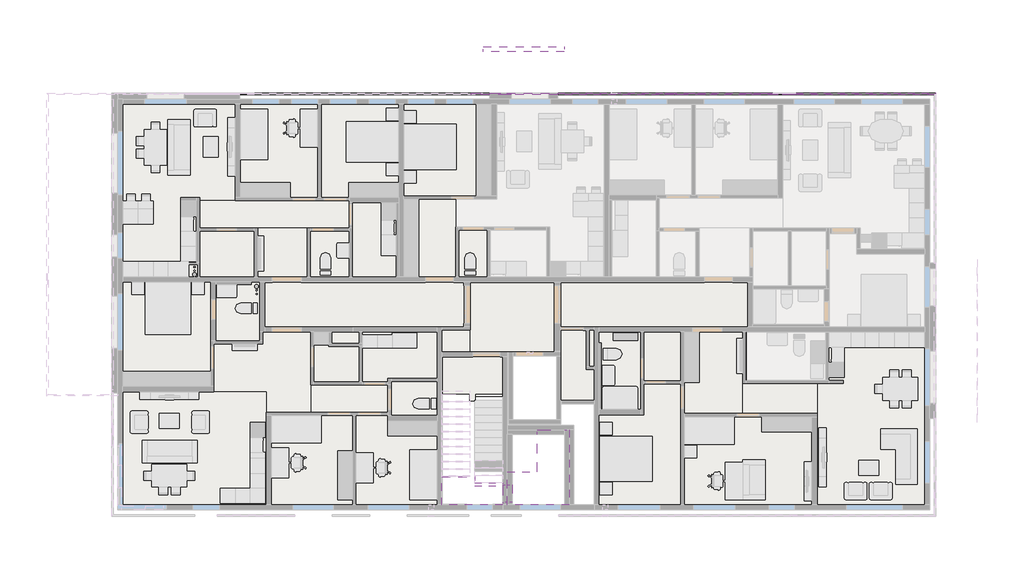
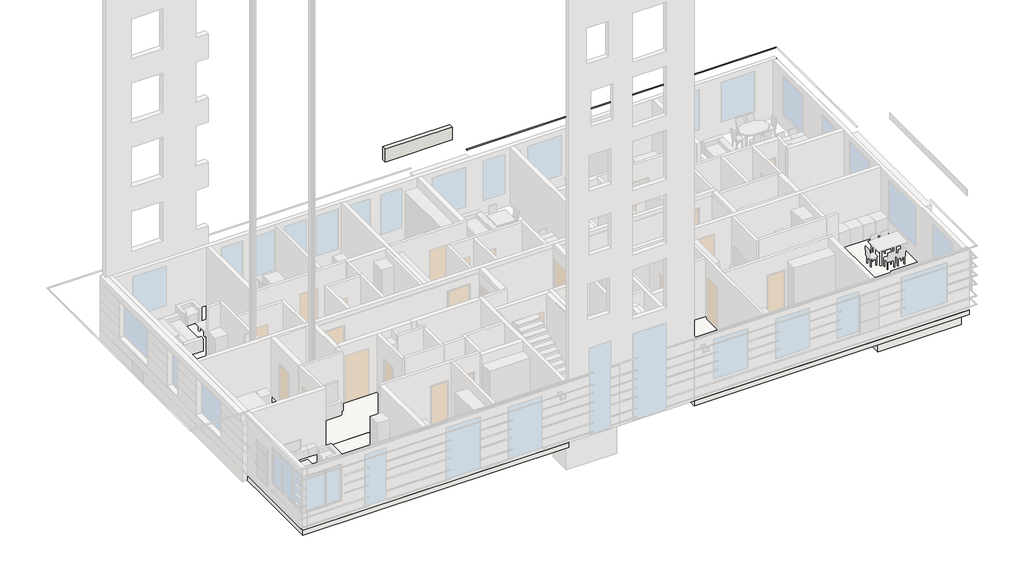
# One storey, part 8 of 11: 35 slabs, 17 proxies, 1 wall.
"""IFC4 building model written with IfcOpenShell, lengths in millimetres."""

from ifc_helpers import new_model, si_unit, frame, origin, place, context, project, spatial, polyline, outline, extrude, faceted_brep, element, save

model = new_model("IFC4")

# Units and contexts
model_context = context("Model", 3, world=origin())
ifc_project = project(units=[si_unit("LENGTHUNIT", "METRE", prefix="MILLI")], contexts=[model_context])

# Site, building, storey
site = spatial("IfcSite", under=ifc_project)
building = spatial("IfcBuilding", under=site)
storey = spatial("IfcBuildingStorey", under=building, Name="02_+4,400_Ж", Elevation=1200.0)

# Proxies
placement = place(None, origin())
element("IfcBuildingElementProxy", 1, Name="Reveals", at=placement, inside=storey, context=model_context, shape_type="SweptSolid", body=[
    extrude(outline(polyline([(143829.5000001, 128049.9999987), (143829.5000001, 127989.9999987), (143080.0000001, 127989.9999987), (143080.0000001, 128049.9999987), (143829.5000001, 128049.9999987)])), frame((0.0, 0.0, 2940.0), z_axis=(0.0, 0.0, 1.0), x_axis=(1.0, 0.0, 0.0)), (0.0, 0.0, 1.0), 5.0),
    extrude(outline(polyline([(135980.0000001, 128049.9999987), (135980.0000001, 127989.9999987), (135330.0000001, 127989.9999987), (135330.0000001, 128049.9999987), (135980.0000001, 128049.9999987)])), frame((0.0, 0.0, 2940.0), z_axis=(0.0, 0.0, 1.0), x_axis=(1.0, 0.0, 0.0)), (0.0, 0.0, 1.0), 5.0),
    extrude(outline(polyline([(137530.0000001, 128049.9999987), (137530.0000001, 127989.9999987), (136880.0000001, 127989.9999987), (136880.0000001, 128049.9999987), (137530.0000001, 128049.9999987)])), frame((0.0, 0.0, 2940.0), z_axis=(0.0, 0.0, 1.0), x_axis=(1.0, 0.0, 0.0)), (0.0, 0.0, 1.0), 5.0),
    extrude(outline(polyline([(139080.0000001, 128049.9999987), (139080.0000001, 127989.9999987), (138430.0000001, 127989.9999987), (138430.0000001, 128049.9999987), (139080.0000001, 128049.9999987)])), frame((0.0, 0.0, 2940.0), z_axis=(0.0, 0.0, 1.0), x_axis=(1.0, 0.0, 0.0)), (0.0, 0.0, 1.0), 5.0),
    extrude(outline(polyline([(140630.0000001, 128049.9999987), (140630.0000001, 127989.9999987), (139980.0000001, 127989.9999987), (139980.0000001, 128049.9999987), (140630.0000001, 128049.9999987)])), frame((0.0, 0.0, 2940.0), z_axis=(0.0, 0.0, 1.0), x_axis=(1.0, 0.0, 0.0)), (0.0, 0.0, 1.0), 5.0),
    extrude(outline(polyline([(142180.0000001, 128049.9999987), (142180.0000001, 127989.9999987), (141530.0000001, 127989.9999987), (141530.0000001, 128049.9999987), (142180.0000001, 128049.9999987)])), frame((0.0, 0.0, 2940.0), z_axis=(0.0, 0.0, 1.0), x_axis=(1.0, 0.0, 0.0)), (0.0, 0.0, 1.0), 5.0),
])
element("IfcBuildingElementProxy", 2, Name="Reveals", at=placement, inside=storey, context=model_context, shape_type="SweptSolid", body=[
    extrude(outline(polyline([(143829.5000001, 128049.9999987), (143829.5000001, 127989.9999987), (143080.0000001, 127989.9999987), (143080.0000001, 128049.9999987), (143829.5000001, 128049.9999987)])), frame((0.0, 0.0, 2485.0), z_axis=(0.0, 0.0, 1.0), x_axis=(1.0, 0.0, 0.0)), (0.0, 0.0, 1.0), 5.0),
    extrude(outline(polyline([(135980.0000001, 128049.9999987), (135980.0000001, 127989.9999987), (135330.0000001, 127989.9999987), (135330.0000001, 128049.9999987), (135980.0000001, 128049.9999987)])), frame((0.0, 0.0, 2485.0), z_axis=(0.0, 0.0, 1.0), x_axis=(1.0, 0.0, 0.0)), (0.0, 0.0, 1.0), 5.0),
    extrude(outline(polyline([(137530.0000001, 128049.9999987), (137530.0000001, 127989.9999987), (136880.0000001, 127989.9999987), (136880.0000001, 128049.9999987), (137530.0000001, 128049.9999987)])), frame((0.0, 0.0, 2485.0), z_axis=(0.0, 0.0, 1.0), x_axis=(1.0, 0.0, 0.0)), (0.0, 0.0, 1.0), 5.0),
    extrude(outline(polyline([(139080.0000001, 128049.9999987), (139080.0000001, 127989.9999987), (138430.0000001, 127989.9999987), (138430.0000001, 128049.9999987), (139080.0000001, 128049.9999987)])), frame((0.0, 0.0, 2485.0), z_axis=(0.0, 0.0, 1.0), x_axis=(1.0, 0.0, 0.0)), (0.0, 0.0, 1.0), 5.0),
    extrude(outline(polyline([(140630.0000001, 128049.9999987), (140630.0000001, 127989.9999987), (139980.0000001, 127989.9999987), (139980.0000001, 128049.9999987), (140630.0000001, 128049.9999987)])), frame((0.0, 0.0, 2485.0), z_axis=(0.0, 0.0, 1.0), x_axis=(1.0, 0.0, 0.0)), (0.0, 0.0, 1.0), 5.0),
    extrude(outline(polyline([(142180.0000001, 128049.9999987), (142180.0000001, 127989.9999987), (141530.0000001, 127989.9999987), (141530.0000001, 128049.9999987), (142180.0000001, 128049.9999987)])), frame((0.0, 0.0, 2485.0), z_axis=(0.0, 0.0, 1.0), x_axis=(1.0, 0.0, 0.0)), (0.0, 0.0, 1.0), 5.0),
    extrude(outline(polyline([(134430.0000001, 128049.9999987), (134430.0000001, 127989.9999987), (133840.0000001, 127989.9999987), (133840.0000001, 128049.9999987), (134430.0000001, 128049.9999987)])), frame((0.0, 0.0, 2485.0), z_axis=(0.0, 0.0, 1.0), x_axis=(1.0, 0.0, 0.0)), (0.0, 0.0, 1.0), 5.0),
])
element("IfcBuildingElementProxy", 3, Name="Reveals", at=placement, inside=storey, context=model_context, shape_type="SweptSolid", body=[
    extrude(outline(polyline([(143829.5000001, 128049.9999987), (143829.5000001, 127989.9999987), (133840.0000001, 127989.9999987), (133840.0000001, 128049.9999987), (143829.5000001, 128049.9999987)])), frame((0.0, 0.0, 1880.0), z_axis=(0.0, 0.0, 1.0), x_axis=(1.0, 0.0, 0.0)), (0.0, 0.0, 1.0), 5.0),
])
element("IfcBuildingElementProxy", 4, Name="Reveals", at=placement, inside=storey, context=model_context, shape_type="SweptSolid", body=[
    extrude(outline(polyline([(143829.5000001, 128049.9999987), (143829.5000001, 127989.9999987), (133840.0000001, 127989.9999987), (133840.0000001, 128049.9999987), (143829.5000001, 128049.9999987)])), frame((0.0, 0.0, 1425.0), z_axis=(0.0, 0.0, 1.0), x_axis=(1.0, 0.0, 0.0)), (0.0, 0.0, 1.0), 5.0),
])
element("IfcBuildingElementProxy", 5, Name="Reveals", at=placement, inside=storey, context=model_context, shape_type="SweptSolid", body=[
    extrude(outline(polyline([(146529.5000001, 128049.9999987), (146529.5000001, 127989.9999987), (143829.5000001, 127989.9999987), (143829.5000001, 128049.9999987), (146529.5000001, 128049.9999987)])), frame((0.0, 0.0, 3850.0), z_axis=(0.0, 0.0, 1.0), x_axis=(1.0, 0.0, 0.0)), (0.0, 0.0, 1.0), 5.0),
])
element("IfcBuildingElementProxy", 6, Name="Reveals", at=placement, inside=storey, context=model_context, shape_type="SweptSolid", body=[
    extrude(outline(polyline([(146529.5000001, 128049.9999987), (146529.5000001, 127989.9999987), (146180.0000001, 127989.9999987), (146180.0000001, 128049.9999987), (146529.5000001, 128049.9999987)])), frame((0.0, 0.0, 3395.0), z_axis=(0.0, 0.0, 1.0), x_axis=(1.0, 0.0, 0.0)), (0.0, 0.0, 1.0), 5.0),
    extrude(outline(polyline([(144680.0000001, 128049.9999987), (144680.0000001, 127989.9999987), (143829.5000001, 127989.9999987), (143829.5000001, 128049.9999987), (144680.0000001, 128049.9999987)])), frame((0.0, 0.0, 3395.0), z_axis=(0.0, 0.0, 1.0), x_axis=(1.0, 0.0, 0.0)), (0.0, 0.0, 1.0), 5.0),
])
element("IfcBuildingElementProxy", 7, Name="Reveals", at=placement, inside=storey, context=model_context, shape_type="SweptSolid", body=[
    extrude(outline(polyline([(146529.5000001, 128049.9999987), (146529.5000001, 127989.9999987), (146180.0000001, 127989.9999987), (146180.0000001, 128049.9999987), (146529.5000001, 128049.9999987)])), frame((0.0, 0.0, 2940.0), z_axis=(0.0, 0.0, 1.0), x_axis=(1.0, 0.0, 0.0)), (0.0, 0.0, 1.0), 5.0),
    extrude(outline(polyline([(144680.0000001, 128049.9999987), (144680.0000001, 127989.9999987), (143829.5000001, 127989.9999987), (143829.5000001, 128049.9999987), (144680.0000001, 128049.9999987)])), frame((0.0, 0.0, 2940.0), z_axis=(0.0, 0.0, 1.0), x_axis=(1.0, 0.0, 0.0)), (0.0, 0.0, 1.0), 5.0),
])
element("IfcBuildingElementProxy", 8, Name="Reveals", at=placement, inside=storey, context=model_context, shape_type="SweptSolid", body=[
    extrude(outline(polyline([(146529.5000001, 128049.9999987), (146529.5000001, 127989.9999987), (146180.0000001, 127989.9999987), (146180.0000001, 128049.9999987), (146529.5000001, 128049.9999987)])), frame((0.0, 0.0, 2485.0), z_axis=(0.0, 0.0, 1.0), x_axis=(1.0, 0.0, 0.0)), (0.0, 0.0, 1.0), 5.0),
    extrude(outline(polyline([(144680.0000001, 128049.9999987), (144680.0000001, 127989.9999987), (143829.5000001, 127989.9999987), (143829.5000001, 128049.9999987), (144680.0000001, 128049.9999987)])), frame((0.0, 0.0, 2485.0), z_axis=(0.0, 0.0, 1.0), x_axis=(1.0, 0.0, 0.0)), (0.0, 0.0, 1.0), 5.0),
])
element("IfcBuildingElementProxy", 9, Name="Reveals", at=placement, inside=storey, context=model_context, shape_type="SweptSolid", body=[
    extrude(outline(polyline([(146529.5000001, 128049.9999987), (146529.5000001, 127989.9999987), (143829.5000001, 127989.9999987), (143829.5000001, 128049.9999987), (146529.5000001, 128049.9999987)])), frame((0.0, 0.0, 1880.0), z_axis=(0.0, 0.0, 1.0), x_axis=(1.0, 0.0, 0.0)), (0.0, 0.0, 1.0), 5.0),
])
element("IfcBuildingElementProxy", 10, Name="Reveals", at=placement, inside=storey, context=model_context, shape_type="SweptSolid", body=[
    extrude(outline(polyline([(146529.5000001, 128049.9999987), (146529.5000001, 127989.9999987), (143829.5000001, 127989.9999987), (143829.5000001, 128049.9999987), (146529.5000001, 128049.9999987)])), frame((0.0, 0.0, 1425.0), z_axis=(0.0, 0.0, 1.0), x_axis=(1.0, 0.0, 0.0)), (0.0, 0.0, 1.0), 5.0),
])
element("IfcBuildingElementProxy", 11, Name="Reveals", at=placement, inside=storey, context=model_context, shape_type="SweptSolid", body=[
    extrude(outline(polyline([(161630.0000001, 128049.9999987), (161570.0000001, 127989.9999987), (146529.5000001, 127989.9999987), (146529.5000001, 128049.9999987), (161630.0000001, 128049.9999987)])), frame((0.0, 0.0, 4455.0), z_axis=(0.0, 0.0, 1.0), x_axis=(1.0, 0.0, 0.0)), (0.0, 0.0, 1.0), 5.0),
])
element("IfcBuildingElementProxy", 12, Name="Reveals", at=placement, inside=storey, context=model_context, shape_type="SweptSolid", body=[
    extrude(outline(polyline([(161630.0000001, 128049.9999987), (161570.0000001, 127989.9999987), (146529.5000001, 127989.9999987), (146529.5000001, 128049.9999987), (161630.0000001, 128049.9999987)])), frame((0.0, 0.0, 3850.0), z_axis=(0.0, 0.0, 1.0), x_axis=(1.0, 0.0, 0.0)), (0.0, 0.0, 1.0), 5.0),
])
element("IfcBuildingElementProxy", 13, Name="Reveals", at=placement, inside=storey, context=model_context, shape_type="SweptSolid", body=[
    extrude(outline(polyline([(161630.0000001, 128049.9999987), (161570.0000001, 127989.9999987), (160230.0000001, 127989.9999987), (160230.0000001, 128049.9999987), (161630.0000001, 128049.9999987)])), frame((0.0, 0.0, 3395.0), z_axis=(0.0, 0.0, 1.0), x_axis=(1.0, 0.0, 0.0)), (0.0, 0.0, 1.0), 5.0),
    extrude(outline(polyline([(147180.0000001, 128049.9999987), (147180.0000001, 127989.9999987), (146529.5000001, 127989.9999987), (146529.5000001, 128049.9999987), (147180.0000001, 128049.9999987)])), frame((0.0, 0.0, 3395.0), z_axis=(0.0, 0.0, 1.0), x_axis=(1.0, 0.0, 0.0)), (0.0, 0.0, 1.0), 5.0),
    extrude(outline(polyline([(149330.0000001, 128049.9999987), (149330.0000001, 127989.9999987), (148080.0000001, 127989.9999987), (148080.0000001, 128049.9999987), (149330.0000001, 128049.9999987)])), frame((0.0, 0.0, 3395.0), z_axis=(0.0, 0.0, 1.0), x_axis=(1.0, 0.0, 0.0)), (0.0, 0.0, 1.0), 5.0),
    extrude(outline(polyline([(152430.0000001, 128049.9999987), (152430.0000001, 127989.9999987), (150830.0000001, 127989.9999987), (150830.0000001, 128049.9999987), (152430.0000001, 128049.9999987)])), frame((0.0, 0.0, 3395.0), z_axis=(0.0, 0.0, 1.0), x_axis=(1.0, 0.0, 0.0)), (0.0, 0.0, 1.0), 5.0),
    extrude(outline(polyline([(156030.0000001, 128049.9999987), (156030.0000001, 127989.9999987), (153930.0000001, 127989.9999987), (153930.0000001, 128049.9999987), (156030.0000001, 128049.9999987)])), frame((0.0, 0.0, 3395.0), z_axis=(0.0, 0.0, 1.0), x_axis=(1.0, 0.0, 0.0)), (0.0, 0.0, 1.0), 5.0),
    extrude(outline(polyline([(158730.0000001, 128049.9999987), (158730.0000001, 127989.9999987), (157530.0000001, 127989.9999987), (157530.0000001, 128049.9999987), (158730.0000001, 128049.9999987)])), frame((0.0, 0.0, 3395.0), z_axis=(0.0, 0.0, 1.0), x_axis=(1.0, 0.0, 0.0)), (0.0, 0.0, 1.0), 5.0),
])
element("IfcBuildingElementProxy", 14, Name="Reveals", at=placement, inside=storey, context=model_context, shape_type="SweptSolid", body=[
    extrude(outline(polyline([(161630.0000001, 128049.9999987), (161570.0000001, 127989.9999987), (160230.0000001, 127989.9999987), (160230.0000001, 128049.9999987), (161630.0000001, 128049.9999987)])), frame((0.0, 0.0, 2940.0), z_axis=(0.0, 0.0, 1.0), x_axis=(1.0, 0.0, 0.0)), (0.0, 0.0, 1.0), 5.0),
    extrude(outline(polyline([(158730.0000001, 128049.9999987), (158730.0000001, 127989.9999987), (157530.0000001, 127989.9999987), (157530.0000001, 128049.9999987), (158730.0000001, 128049.9999987)])), frame((0.0, 0.0, 2940.0), z_axis=(0.0, 0.0, 1.0), x_axis=(1.0, 0.0, 0.0)), (0.0, 0.0, 1.0), 5.0),
    extrude(outline(polyline([(147180.0000001, 128049.9999987), (147180.0000001, 127989.9999987), (146529.5000001, 127989.9999987), (146529.5000001, 128049.9999987), (147180.0000001, 128049.9999987)])), frame((0.0, 0.0, 2940.0), z_axis=(0.0, 0.0, 1.0), x_axis=(1.0, 0.0, 0.0)), (0.0, 0.0, 1.0), 5.0),
    extrude(outline(polyline([(149330.0000001, 128049.9999987), (149330.0000001, 127989.9999987), (148080.0000001, 127989.9999987), (148080.0000001, 128049.9999987), (149330.0000001, 128049.9999987)])), frame((0.0, 0.0, 2940.0), z_axis=(0.0, 0.0, 1.0), x_axis=(1.0, 0.0, 0.0)), (0.0, 0.0, 1.0), 5.0),
    extrude(outline(polyline([(152430.0000001, 128049.9999987), (152430.0000001, 127989.9999987), (150830.0000001, 127989.9999987), (150830.0000001, 128049.9999987), (152430.0000001, 128049.9999987)])), frame((0.0, 0.0, 2940.0), z_axis=(0.0, 0.0, 1.0), x_axis=(1.0, 0.0, 0.0)), (0.0, 0.0, 1.0), 5.0),
    extrude(outline(polyline([(155130.0000001, 128049.9999987), (155130.0000001, 127989.9999987), (153930.0000001, 127989.9999987), (153930.0000001, 128049.9999987), (155130.0000001, 128049.9999987)])), frame((0.0, 0.0, 2940.0), z_axis=(0.0, 0.0, 1.0), x_axis=(1.0, 0.0, 0.0)), (0.0, 0.0, 1.0), 5.0),
])
element("IfcBuildingElementProxy", 15, Name="Reveals", at=placement, inside=storey, context=model_context, shape_type="SweptSolid", body=[
    extrude(outline(polyline([(161630.0000001, 128049.9999987), (161570.0000001, 127989.9999987), (160230.0000001, 127989.9999987), (160230.0000001, 128049.9999987), (161630.0000001, 128049.9999987)])), frame((0.0, 0.0, 2485.0), z_axis=(0.0, 0.0, 1.0), x_axis=(1.0, 0.0, 0.0)), (0.0, 0.0, 1.0), 5.0),
    extrude(outline(polyline([(147180.0000001, 128049.9999987), (147180.0000001, 127989.9999987), (146529.5000001, 127989.9999987), (146529.5000001, 128049.9999987), (147180.0000001, 128049.9999987)])), frame((0.0, 0.0, 2485.0), z_axis=(0.0, 0.0, 1.0), x_axis=(1.0, 0.0, 0.0)), (0.0, 0.0, 1.0), 5.0),
    extrude(outline(polyline([(149330.0000001, 128049.9999987), (149330.0000001, 127989.9999987), (148080.0000001, 127989.9999987), (148080.0000001, 128049.9999987), (149330.0000001, 128049.9999987)])), frame((0.0, 0.0, 2485.0), z_axis=(0.0, 0.0, 1.0), x_axis=(1.0, 0.0, 0.0)), (0.0, 0.0, 1.0), 5.0),
    extrude(outline(polyline([(152430.0000001, 128049.9999987), (152430.0000001, 127989.9999987), (150830.0000001, 127989.9999987), (150830.0000001, 128049.9999987), (152430.0000001, 128049.9999987)])), frame((0.0, 0.0, 2485.0), z_axis=(0.0, 0.0, 1.0), x_axis=(1.0, 0.0, 0.0)), (0.0, 0.0, 1.0), 5.0),
    extrude(outline(polyline([(156030.0000001, 128049.9999987), (156030.0000001, 127989.9999987), (153930.0000001, 127989.9999987), (153930.0000001, 128049.9999987), (156030.0000001, 128049.9999987)])), frame((0.0, 0.0, 2485.0), z_axis=(0.0, 0.0, 1.0), x_axis=(1.0, 0.0, 0.0)), (0.0, 0.0, 1.0), 5.0),
    extrude(outline(polyline([(158730.0000001, 128049.9999987), (158730.0000001, 127989.9999987), (157530.0000001, 127989.9999987), (157530.0000001, 128049.9999987), (158730.0000001, 128049.9999987)])), frame((0.0, 0.0, 2485.0), z_axis=(0.0, 0.0, 1.0), x_axis=(1.0, 0.0, 0.0)), (0.0, 0.0, 1.0), 5.0),
])
element("IfcBuildingElementProxy", 16, Name="Reveals", at=placement, inside=storey, context=model_context, shape_type="SweptSolid", body=[
    extrude(outline(polyline([(161630.0000001, 128049.9999987), (161570.0000001, 127989.9999987), (146529.5000001, 127989.9999987), (146529.5000001, 128049.9999987), (161630.0000001, 128049.9999987)])), frame((0.0, 0.0, 1880.0), z_axis=(0.0, 0.0, 1.0), x_axis=(1.0, 0.0, 0.0)), (0.0, 0.0, 1.0), 5.0),
])
element("IfcBuildingElementProxy", 17, Name="Reveals", at=placement, inside=storey, context=model_context, shape_type="SweptSolid", body=[
    extrude(outline(polyline([(161630.0000001, 128049.9999987), (161570.0000001, 127989.9999987), (146529.5000001, 127989.9999987), (146529.5000001, 128049.9999987), (161630.0000001, 128049.9999987)])), frame((0.0, 0.0, 1425.0), z_axis=(0.0, 0.0, 1.0), x_axis=(1.0, 0.0, 0.0)), (0.0, 0.0, 1.0), 5.0),
])

# Slabs
element("IfcSlab", 18, ObjectType="FIN_50_Тип 17_ЛК промежуточные-------", at=placement, inside=storey, context=model_context, shape_type="Brep", body=[
    faceted_brep([(144350.0000001, 111599.9999987, 2800.0), (141910.0000001, 111599.9999987, 2800.0), (141910.0000001, 112719.9999987, 2800.0), (143230.0000001, 112719.9999987, 2800.0), (143230.0000001, 112479.9999987, 2800.0), (144350.0000001, 112479.9999987, 2800.0), (144350.0000001, 112399.9999987, 2800.0), (144530.0000001, 112399.9999987, 2800.0), (144720.0000001, 112399.9999987, 2800.0), (144720.0000001, 111699.9999987, 2800.0), (144530.0000001, 111699.9999987, 2800.0), (144350.0000001, 111699.9999987, 2800.0), (144350.0000001, 111599.9999987, 2850.0), (144350.0000001, 111699.9999987, 2850.0), (144530.0000001, 111699.9999987, 2850.0), (144720.0000001, 111699.9999987, 2850.0), (144720.0000001, 112399.9999987, 2850.0), (144530.0000001, 112399.9999987, 2850.0), (144350.0000001, 112399.9999987, 2850.0), (144350.0000001, 112479.9999987, 2850.0), (143230.0000001, 112479.9999987, 2850.0), (143230.0000001, 112719.9999987, 2850.0), (141910.0000001, 112719.9999987, 2850.0), (141910.0000001, 111599.9999987, 2850.0), (143230.0000001, 112479.9999987, 2820.0), (144350.0000001, 112479.9999987, 2820.0)], [[[0, 1, 2, 3, 4, 5, 6, 7, 8, 9, 10, 11]], [[12, 13, 14, 15, 16, 17, 18, 19, 20, 21, 22, 23]], [[0, 11, 13, 12]], [[2, 1, 23, 22]], [[1, 0, 12, 23]], [[3, 2, 22, 21]], [[5, 4, 24, 20, 19, 25]], [[4, 3, 21, 20, 24]], [[11, 10, 9, 15, 14, 13]], [[9, 8, 16, 15]], [[8, 7, 6, 18, 17, 16]], [[6, 5, 25, 19, 18]]]),
])
element("IfcSlab", 19, ObjectType="STR_CIP_UP_200_выше 0,000-------", at=placement, inside=storey, context=model_context, shape_type="SweptSolid", body=[
    extrude(outline(polyline([(144350.0000002, 111599.9999987), (141910.0000001, 111599.9999987), (141910.0000001, 112749.9999987), (143230.0000002, 112749.9999987), (143230.0000002, 112349.9999987), (144350.0000002, 112349.9999987), (144350.0000002, 111599.9999987)])), frame((0.0, 0.0, 2620.0), z_axis=(0.0, 0.0, 1.0), x_axis=(1.0, 0.0, 0.0)), (0.0, 0.0, 1.0), 200.0),
])
element("IfcSlab", 20, ObjectType="STR_CIP_UP_250_выше 0,000_НАД ВСТР.-------", at=placement, inside=storey, context=model_context, shape_type="Brep", body=[
    faceted_brep([(141910.0000002, 111399.9999987, 850.0), (128980.0000001, 111399.9999987, 850.0), (128980.0000001, 127799.9999987, 850.0), (161380.0000001, 127799.9999987, 850.0), (161380.0000001, 111399.9999987, 850.0), (148000.0000001, 111399.9999987, 850.0), (148000.0000001, 115639.9999987, 850.0), (146700.0000002, 115639.9999987, 850.0), (146700.0000002, 117749.9999987, 850.0), (144530.0000001, 117749.9999987, 850.0), (144530.0000001, 115939.9999989, 850.0), (143230.0000001, 115939.9999989, 850.0), (143230.0000001, 115749.9999989, 850.0), (143030.0000001, 115749.9999989, 850.0), (143030.0000001, 115767.7708751, 850.0), (143030.0000001, 116149.9999987, 850.0), (141910.0000001, 116149.9999987, 850.0), (141910.0000001, 115767.7708751, 850.0), (128980.0000001, 111399.9999987, 1100.0), (141910.0000002, 111399.9999987, 1100.0), (141910.0000002, 111599.9999987, 1100.0), (141910.0000001, 116019.9999987, 1100.0), (141910.0000001, 116149.9999987, 1100.0), (143030.0000001, 116149.9999987, 1100.0), (143030.0000001, 116019.9999987, 1100.0), (143030.0000001, 115749.9999989, 1100.0), (143230.0000001, 115749.9999989, 1100.0), (143230.0000001, 115939.9999989, 1100.0), (144530.0000001, 115939.9999989, 1100.0), (144530.0000001, 117519.9999987, 1100.0), (144530.0000001, 117749.9999987, 1100.0), (146700.0000002, 117749.9999987, 1100.0), (146700.0000002, 115639.9999987, 1100.0), (148000.0000001, 115639.9999987, 1100.0), (148000.0000001, 111599.9999987, 1100.0), (148000.0000001, 111399.9999987, 1100.0), (161380.0000001, 111399.9999987, 1100.0), (161380.0000001, 111599.9999987, 1100.0), (161380.0000001, 127799.9999987, 1100.0), (128980.0000001, 127799.9999987, 1100.0), (143230.0000001, 115749.9999989, 991.1145617), (143030.0000001, 115749.9999989, 1020.0)], [[[0, 1, 2, 3, 4, 5, 6, 7, 8, 9, 10, 11, 12, 13, 14, 15, 16, 17]], [[18, 19, 20, 21, 22, 23, 24, 25, 26, 27, 28, 29, 30, 31, 32, 33, 34, 35, 36, 37, 38, 39]], [[1, 0, 19, 18]], [[2, 1, 18, 39]], [[4, 3, 38, 37, 36]], [[3, 2, 39, 38]], [[5, 4, 36, 35]], [[6, 5, 35, 34, 33]], [[7, 6, 33, 32]], [[19, 0, 17, 16, 22, 21, 20]], [[13, 12, 40, 26, 25, 41]], [[23, 15, 14, 13, 41, 25, 24]], [[8, 7, 32, 31]], [[9, 8, 31, 30]], [[10, 9, 30, 29, 28]], [[11, 10, 28, 27]], [[12, 11, 27, 26, 40]], [[15, 23, 22, 16]]]),
])
element("IfcSlab", 21, ObjectType="FIN_100_Тип 15_МОП поэтажные-------", at=placement, inside=storey, context=model_context, shape_type="SweptSolid", body=[
    extrude(outline(polyline([(142240.0000001, 120499.9999987), (142800.0000002, 120499.9999987), (142800.0000002, 120369.9999987), (142925.0000002, 120369.9999987), (142925.0000002, 118839.9999987), (142800.0000002, 118839.9999987), (142800.0000002, 118699.9999987), (136290.0000001, 118699.9999987), (136290.0000001, 118599.9999987), (135140.0000001, 118599.9999987), (135140.0000001, 118699.9999987), (134840.0000001, 118699.9999987), (134840.0000001, 120499.9999987), (135140.0000001, 120499.9999987), (135140.0000001, 120599.9999987), (136290.0000001, 120599.9999987), (136290.0000001, 120499.9999987), (141090.0000001, 120499.9999987), (141090.0000001, 120599.9999987), (142240.0000001, 120599.9999987), (142240.0000001, 120499.9999987)])), frame((0.0, 0.0, 1100.0), z_axis=(0.0, 0.0, 1.0), x_axis=(1.0, 0.0, 0.0)), (0.0, 0.0, 1.0), 100.0),
])
element("IfcSlab", 22, ObjectType="FIN_100_Тип 15_МОП поэтажные-------", at=placement, inside=storey, context=model_context, shape_type="SweptSolid", body=[
    extrude(outline(polyline([(152375.0000001, 120499.9999987), (152375.0000001, 120599.9999987), (153525.0000001, 120599.9999987), (153525.0000001, 120499.9999987), (154130.0000001, 120499.9999987), (154130.0000001, 118699.9999987), (153432.0000001, 118699.9999987), (153432.0000001, 118599.9999987), (152282.0000001, 118599.9999987), (152282.0000001, 118699.9999987), (147550.0000002, 118699.9999987), (147550.0000002, 118639.9999987), (146650.0000002, 118639.9999987), (146650.0000002, 118839.9999987), (146525.0000002, 118839.9999987), (146525.0000002, 120369.9999987), (146650.0000002, 120369.9999987), (146650.0000002, 120499.9999987), (152375.0000001, 120499.9999987)])), frame((0.0, 0.0, 1100.0), z_axis=(0.0, 0.0, 1.0), x_axis=(1.0, 0.0, 0.0)), (0.0, 0.0, 1.0), 100.0),
])
element("IfcSlab", 23, ObjectType="FIN_100_Тип 15_МОП поэтажные-------", at=placement, inside=storey, context=model_context, shape_type="SweptSolid", body=[
    extrude(outline(polyline([(146400.0000002, 120499.9999987), (146400.0000002, 120369.9999987), (146525.0000002, 120369.9999987), (146525.0000002, 118839.9999987), (146400.0000002, 118839.9999987), (146400.0000002, 117699.9999987), (144250.0000001, 117699.9999987), (144250.0000001, 117609.9999987), (143150.0000001, 117609.9999987), (143150.0000001, 117699.9999987), (143050.0000002, 117699.9999987), (143050.0000002, 118839.9999987), (142925.0000002, 118839.9999987), (142925.0000002, 120369.9999987), (143050.0000002, 120369.9999987), (143050.0000002, 120499.9999987), (146400.0000002, 120499.9999987)])), frame((0.0, 0.0, 1100.0), z_axis=(0.0, 0.0, 1.0), x_axis=(1.0, 0.0, 0.0)), (0.0, 0.0, 1.0), 100.0),
])
element("IfcSlab", 24, ObjectType="FIN_100_Тип 15_ЛК поэтажные-------", at=placement, inside=storey, context=model_context, shape_type="Brep", body=[
    faceted_brep([(143150.0000002, 117519.9999987, 1100.0), (143150.0000002, 117609.9999987, 1100.0), (144250.0000002, 117609.9999987, 1100.0), (144250.0000002, 117519.9999987, 1100.0), (144350.0000002, 117519.9999987, 1100.0), (144350.0000002, 116029.9999989, 1100.0), (143239.9999999, 116029.9999989, 1100.0), (143239.9999999, 115749.9999989, 1100.0), (143019.9999999, 115749.9999989, 1100.0), (143019.9999999, 116029.9999988, 1100.0), (141910.0000002, 116029.9999988, 1100.0), (141910.0000002, 117519.9999987, 1100.0), (143150.0000002, 117519.9999987, 1200.0), (141910.0000002, 117519.9999987, 1200.0), (141910.0000002, 116029.9999988, 1200.0), (143019.9999999, 116029.9999988, 1200.0), (143019.9999999, 116019.9999987, 1200.0), (143019.9999999, 115749.9999989, 1200.0), (143030.0000001, 115749.9999989, 1200.0), (143230.0000002, 115749.9999989, 1200.0), (143239.9999999, 115749.9999989, 1200.0), (143239.9999999, 115779.9999987, 1200.0), (143239.9999999, 116029.9999989, 1200.0), (144350.0000002, 116029.9999989, 1200.0), (144350.0000002, 117519.9999987, 1200.0), (144250.0000002, 117519.9999987, 1200.0), (144250.0000002, 117609.9999987, 1200.0), (143150.0000002, 117609.9999987, 1200.0), (143239.9999999, 115749.9999989, 1170.0), (143019.9999999, 115749.9999989, 1170.0)], [[[0, 1, 2, 3, 4, 5, 6, 7, 8, 9, 10, 11]], [[12, 13, 14, 15, 16, 17, 18, 19, 20, 21, 22, 23, 24, 25, 26, 27]], [[1, 0, 12, 27]], [[2, 1, 27, 26]], [[3, 2, 26, 25]], [[4, 3, 25, 24]], [[5, 4, 24, 23]], [[8, 7, 28, 20, 19, 18, 17, 29]], [[9, 8, 29, 17, 16, 15]], [[10, 9, 15, 14]], [[11, 10, 14, 13]], [[0, 11, 13, 12]], [[6, 5, 23, 22]], [[7, 6, 22, 21, 20, 28]]]),
])
element("IfcSlab", 25, ObjectType="FIN_100_Тех.пом поэтажные-------", at=placement, inside=storey, context=model_context, shape_type="SweptSolid", body=[
    extrude(outline(polyline([(147550.0000002, 118639.9999987), (147550.0000002, 118579.9999987), (147680.0000001, 118579.9999987), (147680.0000001, 117009.9999987), (148000.0000001, 117009.9999987), (148000.0000001, 115759.9999987), (146650.0000001, 115759.9999987), (146650.0000001, 118639.9999987), (147550.0000002, 118639.9999987)])), frame((0.0, 0.0, 1100.0), z_axis=(0.0, 0.0, 1.0), x_axis=(1.0, 0.0, 0.0)), (0.0, 0.0, 1.0), 100.0),
])
element("IfcSlab", 26, ObjectType="FIN_100_Тип 19_Квартиры-------", at=placement, inside=storey, context=model_context, shape_type="SweptSolid", body=[
    extrude(outline(polyline([(136680.0000001, 116514.9999987), (136680.0000001, 118499.9999987), (137390.0000001, 118499.9999987), (137390.0000001, 117929.9999987), (138730.0000001, 117929.9999987), (138730.0000001, 116514.9999987), (136680.0000001, 116514.9999987)])), frame((0.0, 0.0, 1100.0), z_axis=(0.0, 0.0, 1.0), x_axis=(1.0, 0.0, 0.0)), (0.0, 0.0, 1.0), 100.0),
])
element("IfcSlab", 27, ObjectType="FIN_100_Тип 19_Квартиры-------", at=placement, inside=storey, context=model_context, shape_type="SweptSolid", body=[
    extrude(outline(polyline([(134430.0000001, 120699.9999987), (132240.0000001, 120699.9999987), (132240.0000001, 122654.9999987), (134430.0000001, 122654.9999987), (134430.0000001, 120699.9999987)])), frame((0.0, 0.0, 1100.0), z_axis=(0.0, 0.0, 1.0), x_axis=(1.0, 0.0, 0.0)), (0.0, 0.0, 1.0), 100.0),
])
element("IfcSlab", 28, ObjectType="FIN_100_Тип 19_Квартиры-------", at=placement, inside=storey, context=model_context, shape_type="SweptSolid", body=[
    extrude(outline(polyline([(141730.0000002, 111599.9999987), (138355.0000001, 111599.9999987), (138355.0000001, 115289.9999987), (139885.0000001, 115289.9999987), (139885.0000001, 115164.9999987), (141730.0000002, 115164.9999987), (141730.0000002, 111599.9999987)])), frame((0.0, 0.0, 1100.0), z_axis=(0.0, 0.0, 1.0), x_axis=(1.0, 0.0, 0.0)), (0.0, 0.0, 1.0), 100.0),
])
element("IfcSlab", 29, ObjectType="FIN_100_Тип 19_Квартиры-------", at=placement, inside=storey, context=model_context, shape_type="Brep", body=[
    faceted_brep([(138355.0000001, 111599.9999987, 1100.0), (134895.0000001, 111599.9999987, 1100.0), (134895.0000001, 115289.9999987, 1100.0), (136680.0000001, 115289.9999987, 1100.0), (138355.0000001, 115289.9999987, 1100.0), (138355.0000001, 111599.9999987, 1200.0), (138355.0000001, 115289.9999987, 1200.0), (136680.0000001, 115289.9999987, 1200.0), (134895.0000001, 115289.9999987, 1200.0), (134895.0000001, 111599.9999987, 1200.0)], [[[0, 1, 2, 3, 4]], [[5, 6, 7, 8, 9]], [[1, 0, 5, 9]], [[2, 1, 9, 8]], [[4, 3, 2, 8, 7, 6]], [[0, 4, 6, 5]]]),
])
element("IfcSlab", 30, ObjectType="FIN_100_Тип 19_Квартиры-------", at=placement, inside=storey, context=model_context, shape_type="SweptSolid", body=[
    extrude(outline(polyline([(133655.0000001, 127599.9999987), (136965.0000001, 127599.9999987), (136965.0000001, 123754.9999987), (133655.0000001, 123754.9999987), (133655.0000001, 127599.9999987)])), frame((0.0, 0.0, 1100.0), z_axis=(0.0, 0.0, 1.0), x_axis=(1.0, 0.0, 0.0)), (0.0, 0.0, 1.0), 100.0),
])
element("IfcSlab", 31, ObjectType="FIN_100_Тип 19_Квартиры-------", at=placement, inside=storey, context=model_context, shape_type="Brep", body=[
    faceted_brep([(156892.0000001, 111599.9999987, 1100.0), (156892.0000001, 111599.9999987, 1200.0), (151582.0000001, 111599.9999987, 1200.0), (151582.0000001, 111599.9999987, 1100.0), (151582.0000001, 115244.9999987, 1200.0), (151582.0000001, 115244.9999987, 1100.0), (156892.0000001, 115244.9999987, 1100.0), (156892.0000001, 115244.9999987, 1200.0), (153927.0000001, 115244.9999987, 1200.0), (153927.0000001, 115244.9999987, 1100.0)], [[[0, 1, 2, 3]], [[3, 2, 4, 5]], [[6, 7, 1, 0]], [[5, 4, 8, 7, 6, 9]], [[2, 1, 7, 8, 4]], [[3, 5, 9, 6, 0]]]),
])
element("IfcSlab", 32, ObjectType="FIN_100_Тип 19_Квартиры-------", at=placement, inside=storey, context=model_context, shape_type="Brep", body=[
    faceted_brep([(136680.0000001, 115289.9999987, 1100.0), (136680.0000001, 116514.9999987, 1100.0), (138730.0000001, 116514.9999987, 1100.0), (139760.0000001, 116514.9999987, 1100.0), (139885.0000001, 116514.9999987, 1100.0), (139885.0000001, 115289.9999987, 1100.0), (138355.0000001, 115289.9999987, 1100.0), (136680.0000001, 115289.9999987, 1200.0), (138355.0000001, 115289.9999987, 1200.0), (139885.0000001, 115289.9999987, 1200.0), (139885.0000001, 116514.9999987, 1200.0), (139760.0000001, 116514.9999987, 1200.0), (138730.0000001, 116514.9999987, 1200.0), (136680.0000001, 116514.9999987, 1200.0)], [[[0, 1, 2, 3, 4, 5, 6]], [[7, 8, 9, 10, 11, 12, 13]], [[1, 0, 7, 13]], [[4, 3, 2, 1, 13, 12, 11, 10]], [[5, 4, 10, 9]], [[0, 6, 5, 9, 8, 7]]]),
])
element("IfcSlab", 33, ObjectType="FIN_100_Тип 19_Квартиры-------", at=placement, inside=storey, context=model_context, shape_type="Brep", body=[
    faceted_brep([(132240.0000001, 122654.9999987, 1100.0), (132240.0000001, 123754.9999987, 1100.0), (133655.0000001, 123754.9999987, 1100.0), (136965.0000001, 123754.9999987, 1100.0), (138215.0000001, 123754.9999987, 1100.0), (138215.0000001, 123669.9999987, 1100.0), (138340.0000001, 123669.9999987, 1100.0), (138340.0000001, 122529.9999987, 1100.0), (136665.0000001, 122529.9999987, 1100.0), (136665.0000001, 122654.9999987, 1100.0), (134430.0000001, 122654.9999987, 1100.0), (132240.0000001, 123754.9999987, 1200.0), (132240.0000001, 122654.9999987, 1200.0), (134430.0000001, 122654.9999987, 1200.0), (136665.0000001, 122654.9999987, 1200.0), (136665.0000001, 122529.9999987, 1200.0), (138340.0000001, 122529.9999987, 1200.0), (138340.0000001, 123669.9999987, 1200.0), (138215.0000001, 123669.9999987, 1200.0), (138215.0000001, 123754.9999987, 1200.0), (136965.0000001, 123754.9999987, 1200.0), (133655.0000001, 123754.9999987, 1200.0)], [[[0, 1, 2, 3, 4, 5, 6, 7, 8, 9, 10]], [[11, 12, 13, 14, 15, 16, 17, 18, 19, 20, 21]], [[16, 7, 6, 17]], [[10, 9, 14, 13, 12, 0]], [[1, 0, 12, 11]], [[1, 11, 21, 20, 19, 4, 3, 2]], [[5, 18, 17, 6]], [[18, 5, 4, 19]], [[8, 7, 16, 15]], [[9, 8, 15, 14]]]),
])
element("IfcSlab", 34, ObjectType="FIN_100_Тип 19_Квартиры-------", at=placement, inside=storey, context=model_context, shape_type="Brep", body=[
    faceted_brep([(156892.0000001, 116569.9999987, 1100.0), (156892.0000001, 115244.9999987, 1100.0), (153927.0000001, 115244.9999987, 1100.0), (153927.0000001, 116569.9999987, 1100.0), (154052.0000001, 116569.9999987, 1100.0), (156892.0000001, 115244.9999987, 1200.0), (156892.0000001, 116569.9999987, 1200.0), (154052.0000001, 116569.9999987, 1200.0), (153927.0000001, 116569.9999987, 1200.0), (153927.0000001, 115244.9999987, 1200.0)], [[[0, 1, 2, 3, 4]], [[5, 6, 7, 8, 9]], [[1, 0, 6, 5]], [[2, 1, 5, 9]], [[3, 2, 9, 8]], [[3, 8, 7, 6, 0, 4]]]),
])
element("IfcSlab", 35, ObjectType="FIN_100_Тип 19_Квартиры-------", at=placement, inside=storey, context=model_context, shape_type="Brep", body=[
    faceted_brep([(129180.0000001, 111599.9999987, 1100.0), (129180.0000001, 116114.9999987, 1100.0), (132805.0000001, 116114.9999987, 1100.0), (134895.0000001, 116114.9999987, 1100.0), (134895.0000001, 115289.9999987, 1100.0), (134895.0000001, 111599.9999987, 1100.0), (129180.0000001, 111599.9999987, 1200.0), (134895.0000001, 111599.9999987, 1200.0), (134895.0000001, 115289.9999987, 1200.0), (134895.0000001, 116114.9999987, 1200.0), (132805.0000001, 116114.9999987, 1200.0), (129180.0000001, 116114.9999987, 1200.0)], [[[0, 1, 2, 3, 4, 5]], [[6, 7, 8, 9, 10, 11]], [[1, 0, 6, 11]], [[3, 2, 1, 11, 10, 9]], [[5, 4, 3, 9, 8, 7]], [[0, 5, 7, 6]]]),
])
element("IfcSlab", 36, ObjectType="FIN_100_Тип 19_Квартиры-------", at=placement, inside=storey, context=model_context, shape_type="Brep", body=[
    faceted_brep([(129180.0000001, 120699.9999987, 1100.0), (129180.0000001, 127599.9999987, 1100.0), (133655.0000001, 127599.9999987, 1100.0), (133655.0000001, 123754.9999987, 1100.0), (132240.0000001, 123754.9999987, 1100.0), (132240.0000001, 122654.9999987, 1100.0), (132240.0000001, 121279.9999987, 1100.0), (131830.0000001, 121279.9999987, 1100.0), (131830.0000001, 121199.9999987, 1100.0), (132160.0000001, 121199.9999987, 1100.0), (132160.0000001, 120699.9999987, 1100.0), (129180.0000001, 120699.9999987, 1200.0), (132160.0000001, 120699.9999987, 1200.0), (132160.0000001, 121199.9999987, 1200.0), (131830.0000001, 121199.9999987, 1200.0), (131830.0000001, 121279.9999987, 1200.0), (132240.0000001, 121279.9999987, 1200.0), (132240.0000001, 122654.9999987, 1200.0), (132240.0000001, 123754.9999987, 1200.0), (133655.0000001, 123754.9999987, 1200.0), (133655.0000001, 127599.9999987, 1200.0), (129180.0000001, 127599.9999987, 1200.0)], [[[0, 1, 2, 3, 4, 5, 6, 7, 8, 9, 10]], [[11, 12, 13, 14, 15, 16, 17, 18, 19, 20, 21]], [[1, 0, 11, 21]], [[2, 1, 21, 20]], [[3, 2, 20, 19]], [[4, 3, 19, 18]], [[6, 5, 4, 18, 17, 16]], [[7, 6, 16, 15]], [[8, 7, 15, 14]], [[9, 8, 14, 13]], [[10, 9, 13, 12]], [[0, 10, 12, 11]]]),
])
element("IfcSlab", 37, ObjectType="FIN_100_Тип 19_Квартиры-------", at=placement, inside=storey, context=model_context, shape_type="Brep", body=[
    faceted_brep([(161180.0000001, 118499.9999987, 1100.0), (161180.0000001, 111599.9999987, 1100.0), (156892.0000001, 111599.9999987, 1100.0), (156892.0000001, 115244.9999987, 1100.0), (156892.0000001, 116569.9999987, 1100.0), (157227.0000001, 116569.9999987, 1100.0), (157227.0000001, 118499.9999987, 1100.0), (161180.0000001, 118499.9999987, 1200.0), (157227.0000001, 118499.9999987, 1200.0), (157227.0000001, 116569.9999987, 1200.0), (156892.0000001, 116569.9999987, 1200.0), (156892.0000001, 115244.9999987, 1200.0), (156892.0000001, 111599.9999987, 1200.0), (161180.0000001, 111599.9999987, 1200.0)], [[[0, 1, 2, 3, 4, 5, 6]], [[7, 8, 9, 10, 11, 12, 13]], [[1, 0, 7, 13]], [[2, 1, 13, 12]], [[4, 3, 2, 12, 11, 10]], [[5, 4, 10, 9]], [[6, 5, 9, 8]], [[0, 6, 8, 7]]]),
])
element("IfcSlab", 38, ObjectType="FIN_100_Тип 19_Квартиры-------", at=placement, inside=storey, context=model_context, shape_type="Brep", body=[
    faceted_brep([(129180.0000001, 116114.9999987, 1100.0), (129180.0000001, 120499.9999987, 1100.0), (132890.0000001, 120499.9999987, 1100.0), (132890.0000001, 120399.9999987, 1100.0), (132890.0000001, 118149.9999987, 1100.0), (132805.0000001, 118149.9999987, 1100.0), (132805.0000001, 116114.9999987, 1100.0), (129180.0000001, 120499.9999987, 1200.0), (129180.0000001, 116114.9999987, 1200.0), (132805.0000001, 116114.9999987, 1200.0), (132805.0000001, 118149.9999987, 1200.0), (132890.0000001, 118149.9999987, 1200.0), (132890.0000001, 120399.9999987, 1200.0), (132890.0000001, 120499.9999987, 1200.0)], [[[0, 1, 2, 3, 4, 5, 6]], [[7, 8, 9, 10, 11, 12, 13]], [[1, 0, 8, 7]], [[2, 1, 7, 13]], [[4, 3, 2, 13, 12, 11]], [[0, 6, 9, 8]], [[5, 4, 11, 10]], [[6, 5, 10, 9]]]),
])
element("IfcSlab", 39, ObjectType="FIN_100_Тип 19_Квартиры-------", at=placement, inside=storey, context=model_context, shape_type="Brep", body=[
    faceted_brep([(136680.0000001, 118499.9999987, 1100.0), (136680.0000001, 116514.9999987, 1100.0), (136680.0000001, 115289.9999987, 1100.0), (134895.0000001, 115289.9999987, 1100.0), (134895.0000001, 116114.9999987, 1100.0), (132805.0000001, 116114.9999987, 1100.0), (132805.0000001, 118149.9999987, 1100.0), (132890.0000001, 118149.9999987, 1100.0), (134640.0000001, 118149.9999987, 1100.0), (134640.0000001, 118499.9999987, 1100.0), (135140.0000001, 118499.9999987, 1100.0), (135140.0000001, 118599.9999987, 1100.0), (136290.0000001, 118599.9999987, 1100.0), (136290.0000001, 118499.9999987, 1100.0), (136680.0000001, 115289.9999987, 1200.0), (136680.0000001, 116514.9999987, 1200.0), (136680.0000001, 118499.9999987, 1200.0), (136290.0000001, 118499.9999987, 1200.0), (136290.0000001, 118599.9999987, 1200.0), (135140.0000001, 118599.9999987, 1200.0), (135140.0000001, 118499.9999987, 1200.0), (134640.0000001, 118499.9999987, 1200.0), (134640.0000001, 118149.9999987, 1200.0), (132890.0000001, 118149.9999987, 1200.0), (132805.0000001, 118149.9999987, 1200.0), (132805.0000001, 116114.9999987, 1200.0), (134895.0000001, 116114.9999987, 1200.0), (134895.0000001, 115289.9999987, 1200.0)], [[[0, 1, 2, 3, 4, 5, 6, 7, 8, 9, 10, 11, 12, 13]], [[14, 15, 16, 17, 18, 19, 20, 21, 22, 23, 24, 25, 26, 27]], [[2, 1, 0, 16, 15, 14]], [[3, 2, 14, 27]], [[4, 3, 27, 26]], [[5, 4, 26, 25]], [[6, 5, 25, 24]], [[8, 7, 6, 24, 23, 22]], [[9, 8, 22, 21]], [[10, 9, 21, 20]], [[11, 10, 20, 19]], [[12, 11, 19, 18]], [[13, 12, 18, 17]], [[0, 13, 17, 16]]]),
])
element("IfcSlab", 40, ObjectType="FIN_100_Тип 19_Квартиры-------", at=placement, inside=storey, context=model_context, shape_type="Brep", body=[
    faceted_brep([(135140.0000001, 120699.9999987, 1100.0), (134430.0000001, 120699.9999987, 1100.0), (134430.0000001, 122654.9999987, 1100.0), (136665.0000001, 122654.9999987, 1100.0), (136665.0000001, 122529.9999987, 1100.0), (136665.0000001, 120699.9999987, 1100.0), (136290.0000001, 120699.9999987, 1100.0), (136290.0000001, 120599.9999987, 1100.0), (135140.0000001, 120599.9999987, 1100.0), (135140.0000001, 120699.9999987, 1200.0), (135140.0000001, 120599.9999987, 1200.0), (136290.0000001, 120599.9999987, 1200.0), (136290.0000001, 120699.9999987, 1200.0), (136665.0000001, 120699.9999987, 1200.0), (136665.0000001, 122529.9999987, 1200.0), (136665.0000001, 122654.9999987, 1200.0), (134430.0000001, 122654.9999987, 1200.0), (134430.0000001, 120699.9999987, 1200.0)], [[[0, 1, 2, 3, 4, 5, 6, 7, 8]], [[9, 10, 11, 12, 13, 14, 15, 16, 17]], [[1, 0, 9, 17]], [[2, 1, 17, 16]], [[3, 2, 16, 15]], [[5, 4, 3, 15, 14, 13]], [[6, 5, 13, 12]], [[7, 6, 12, 11]], [[8, 7, 11, 10]], [[0, 8, 10, 9]]]),
])
element("IfcSlab", 41, ObjectType="FIN_100_Тип 19_Квартиры-------", at=placement, inside=storey, context=model_context, shape_type="SweptSolid", body=[
    extrude(outline(polyline([(141090.0000001, 120699.9999987), (140390.0000001, 120699.9999987), (140390.0000001, 123804.9999987), (142465.0000001, 123804.9999987), (142465.0000001, 122574.9999987), (142590.0000001, 122574.9999987), (142590.0000001, 120699.9999987), (142240.0000001, 120699.9999987), (142240.0000001, 120599.9999987), (141090.0000001, 120599.9999987), (141090.0000001, 120699.9999987)])), frame((0.0, 0.0, 1100.0), z_axis=(0.0, 0.0, 1.0), x_axis=(1.0, 0.0, 0.0)), (0.0, 0.0, 1.0), 100.0),
])
element("IfcSlab", 42, ObjectType="FIN_100_Тип 19_Квартиры-------", at=placement, inside=storey, context=model_context, shape_type="SweptSolid", body=[
    extrude(outline(polyline([(153432.0000001, 118499.9999987), (154052.0000001, 118499.9999987), (154052.0000001, 116569.9999987), (153927.0000001, 116569.9999987), (153927.0000001, 115244.9999987), (151582.0000001, 115244.9999987), (151582.0000001, 118499.9999987), (152282.0000001, 118499.9999987), (152282.0000001, 118599.9999987), (153432.0000001, 118599.9999987), (153432.0000001, 118499.9999987)])), frame((0.0, 0.0, 1100.0), z_axis=(0.0, 0.0, 1.0), x_axis=(1.0, 0.0, 0.0)), (0.0, 0.0, 1.0), 100.0),
])
element("IfcSlab", 43, ObjectType="FIN_100_Тип 20_Квартиры_С/У-------", at=placement, inside=storey, context=model_context, shape_type="SweptSolid", body=[
    extrude(outline(polyline([(139885.0000001, 116524.9999987), (141730.0000002, 116524.9999987), (141730.0000002, 115164.9999987), (139885.0000001, 115164.9999987), (139885.0000001, 116524.9999987)])), frame((0.0, 0.0, 1100.0), z_axis=(0.0, 0.0, 1.0), x_axis=(1.0, 0.0, 0.0)), (0.0, 0.0, 1.0), 100.0),
])
element("IfcSlab", 44, ObjectType="FIN_100_Тип 20_Квартиры_С/У-------", at=placement, inside=storey, context=model_context, shape_type="Brep", body=[
    faceted_brep([(138730.0000001, 118499.9999987, 1100.0), (141730.0000002, 118499.9999987, 1100.0), (141730.0000002, 116524.9999987, 1100.0), (139885.0000001, 116524.9999987, 1100.0), (139760.0000001, 116524.9999987, 1100.0), (139760.0000001, 116514.9999987, 1100.0), (138730.0000001, 116514.9999987, 1100.0), (138730.0000001, 118499.9999987, 1200.0), (138730.0000001, 116514.9999987, 1200.0), (139760.0000001, 116514.9999987, 1200.0), (139760.0000001, 116524.9999987, 1200.0), (139885.0000001, 116524.9999987, 1200.0), (141730.0000002, 116524.9999987, 1200.0), (141730.0000002, 118499.9999987, 1200.0)], [[[0, 1, 2, 3, 4, 5, 6]], [[7, 8, 9, 10, 11, 12, 13]], [[1, 0, 7, 13]], [[2, 1, 13, 12]], [[4, 3, 2, 12, 11, 10]], [[5, 4, 10, 9]], [[6, 5, 9, 8]], [[0, 6, 8, 7]]]),
])
element("IfcSlab", 45, ObjectType="FIN_100_Тип 20_Квартиры_С/У-------", at=placement, inside=storey, context=model_context, shape_type="SweptSolid", body=[
    extrude(outline(polyline([(134310.0000001, 120399.9999987), (134310.0000001, 120499.9999987), (134640.0000001, 120499.9999987), (134640.0000001, 118149.9999987), (132890.0000001, 118149.9999987), (132890.0000001, 120399.9999987), (134310.0000001, 120399.9999987)])), frame((0.0, 0.0, 1100.0), z_axis=(0.0, 0.0, 1.0), x_axis=(1.0, 0.0, 0.0)), (0.0, 0.0, 1.0), 100.0),
])
element("IfcSlab", 46, ObjectType="FIN_100_Тип 20_Квартиры_С/У-------", at=placement, inside=storey, context=model_context, shape_type="SweptSolid", body=[
    extrude(outline(polyline([(138340.0000001, 120699.9999987), (136665.0000001, 120699.9999987), (136665.0000001, 122529.9999987), (138340.0000001, 122529.9999987), (138340.0000001, 120699.9999987)])), frame((0.0, 0.0, 1100.0), z_axis=(0.0, 0.0, 1.0), x_axis=(1.0, 0.0, 0.0)), (0.0, 0.0, 1.0), 100.0),
])
element("IfcSlab", 47, ObjectType="FIN_100_Тип 20_Квартиры_С/У-------", at=placement, inside=storey, context=model_context, shape_type="Brep", body=[
    faceted_brep([(140090.0000001, 120699.9999987, 1100.0), (138340.0000001, 120699.9999987, 1100.0), (138340.0000001, 122529.9999987, 1100.0), (138340.0000001, 123669.9999987, 1100.0), (140090.0000001, 123669.9999987, 1100.0), (140090.0000001, 120699.9999987, 1200.0), (140090.0000001, 123669.9999987, 1200.0), (138340.0000001, 123669.9999987, 1200.0), (138340.0000001, 122529.9999987, 1200.0), (138340.0000001, 120699.9999987, 1200.0)], [[[0, 1, 2, 3, 4]], [[5, 6, 7, 8, 9]], [[1, 0, 5, 9]], [[3, 2, 1, 9, 8, 7]], [[4, 3, 7, 6]], [[0, 4, 6, 5]]]),
])
element("IfcSlab", 48, ObjectType="FIN_100_Тип 20_Квартиры_С/У-------", at=placement, inside=storey, context=model_context, shape_type="SweptSolid", body=[
    extrude(outline(polyline([(143840.0000001, 120699.9999987), (142590.0000001, 120699.9999987), (142590.0000001, 122574.9999987), (143840.0000001, 122574.9999987), (143840.0000001, 120699.9999987)])), frame((0.0, 0.0, 1100.0), z_axis=(0.0, 0.0, 1.0), x_axis=(1.0, 0.0, 0.0)), (0.0, 0.0, 1.0), 100.0),
])
element("IfcSlab", 49, ObjectType="FIN_100_Тип 19_Квартиры-------", at=placement, inside=storey, context=model_context, shape_type="Brep", body=[
    faceted_brep([(136965.0000001, 127599.9999987, 1100.0), (140190.0000001, 127599.9999987, 1100.0), (140190.0000001, 123669.9999987, 1100.0), (138340.0000001, 123669.9999987, 1100.0), (138215.0000001, 123669.9999987, 1100.0), (138215.0000001, 123754.9999987, 1100.0), (136965.0000001, 123754.9999987, 1100.0), (136965.0000001, 127599.9999987, 1200.0), (136965.0000001, 123754.9999987, 1200.0), (138215.0000001, 123754.9999987, 1200.0), (138215.0000001, 123669.9999987, 1200.0), (138340.0000001, 123669.9999987, 1200.0), (140190.0000001, 123669.9999987, 1200.0), (140190.0000001, 127599.9999987, 1200.0)], [[[0, 1, 2, 3, 4, 5, 6]], [[7, 8, 9, 10, 11, 12, 13]], [[1, 0, 7, 13]], [[2, 1, 13, 12]], [[4, 3, 2, 12, 11, 10]], [[0, 6, 8, 7]], [[5, 4, 10, 9]], [[6, 5, 9, 8]]]),
])
element("IfcSlab", 50, ObjectType="FIN_100_Тип 19_Квартиры-------", at=placement, inside=storey, context=model_context, shape_type="Brep", body=[
    faceted_brep([(140390.0000001, 127599.9999987, 1100.0), (144100.0000001, 127599.9999987, 1100.0), (144100.0000001, 123804.9999987, 1100.0), (142465.0000001, 123804.9999987, 1100.0), (140390.0000001, 123804.9999987, 1100.0), (144100.0000001, 127599.9999987, 1200.0), (140390.0000001, 127599.9999987, 1200.0), (140390.0000001, 123804.9999987, 1200.0), (142465.0000001, 123804.9999987, 1200.0), (144100.0000001, 123804.9999987, 1200.0)], [[[0, 1, 2, 3, 4]], [[5, 6, 7, 8, 9]], [[1, 0, 6, 5]], [[2, 1, 5, 9]], [[2, 9, 8, 7, 4, 3]], [[0, 4, 7, 6]]]),
])
element("IfcSlab", 51, ObjectType="STR_CIP_UP_250_выше 0,000-------", at=placement, inside=storey, context=model_context, shape_type="Brep", body=[
    faceted_brep([(147000.0000001, 114599.9999987, 2450.0), (147000.0000001, 111599.9999987, 2450.0), (144530.0000001, 111599.9999987, 2450.0), (144530.0000001, 112919.9999987, 2450.0), (145710.0000001, 112919.9999987, 2450.0), (145710.0000001, 114409.9999987, 2450.0), (145710.0000001, 114599.9999987, 2450.0), (146810.0000001, 114599.9999987, 2450.0), (147000.0000001, 114599.9999987, 2700.0), (146810.0000001, 114599.9999987, 2700.0), (145710.0000001, 114599.9999987, 2700.0), (145710.0000001, 114409.9999987, 2700.0), (145710.0000001, 112919.9999987, 2700.0), (144530.0000001, 112919.9999987, 2700.0), (144530.0000001, 111599.9999987, 2700.0), (147000.0000001, 111599.9999987, 2700.0)], [[[0, 1, 2, 3, 4, 5, 6, 7]], [[8, 9, 10, 11, 12, 13, 14, 15]], [[1, 0, 8, 15]], [[2, 1, 15, 14]], [[3, 2, 14, 13]], [[4, 3, 13, 12]], [[6, 5, 4, 12, 11, 10]], [[0, 7, 6, 10, 9, 8]]]),
])
element("IfcSlab", 52, ObjectType="STR_CIP_UP_160+300+100_Мусор.кам-------", at=placement, inside=storey, context=model_context, shape_type="SweptSolid", body=[
    extrude(outline(polyline([(161130.0000001, 111649.9999987), (157080.0000002, 111649.9999987), (157080.0000002, 115624.9999987), (159290.0000002, 115624.9999987), (159290.0000002, 118489.9994454), (161130.0000001, 118489.9994454), (161130.0000001, 111649.9999987)])), frame((0.0, 0.0, 290.0), z_axis=(0.0, 0.0, 1.0), x_axis=(1.0, 0.0, 0.0)), (0.0, 0.0, 1.0), 560.0),
])

# Wall
element("IfcWall", 53, ObjectType="BW_THR_EXT_180+30=210_минплита и КГ-------", at=placement, inside=storey, context=model_context, shape_type="SweptSolid", body=[
    extrude(outline(polyline([(143554.5000001, 129909.9999987), (146804.5000002, 129909.9999987), (146804.5000002, 129699.9999987), (143554.5000001, 129699.9999987), (143554.5000001, 129909.9999987)])), frame((0.0, 0.0, 3850.0), z_axis=(0.0, 0.0, 1.0), x_axis=(1.0, 0.0, 0.0)), (0.0, 0.0, 1.0), 650.0),
])

save(model, "model.ifc")
